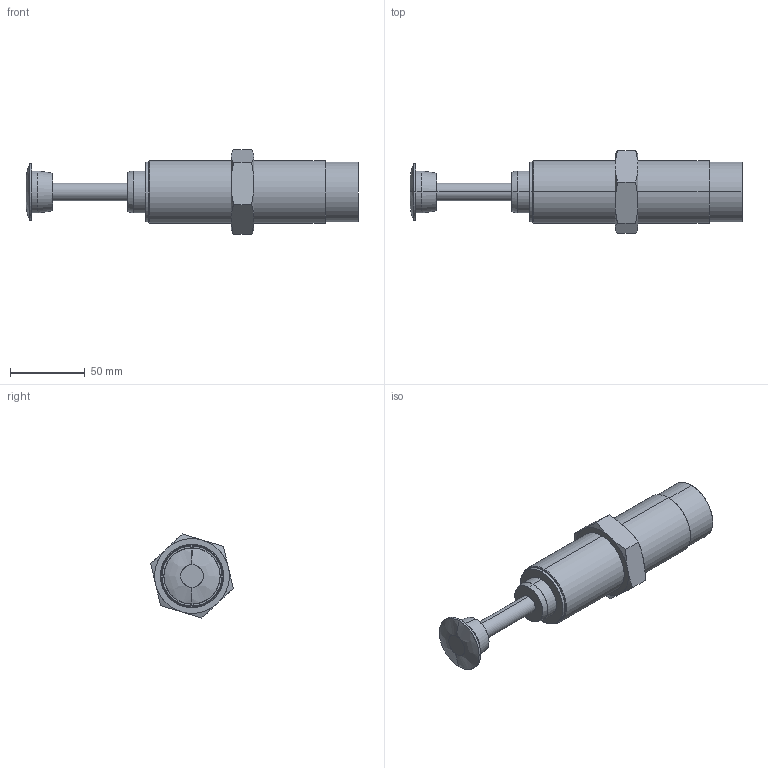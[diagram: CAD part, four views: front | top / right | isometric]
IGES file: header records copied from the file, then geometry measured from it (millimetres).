
Start section: SolidWorks IGES file using analytic representation for surfaces
Global section: file name: C:\Users\Sam Lin\Desktop\48\FSA-4250CD.IGS; native system: SolidWorks 2013; preprocessor: SolidWorks 2013; author: Sam Lin; date: 160317.152554; units: metre
Bounding box: 221.5 x 55.15 x 56.11 mm (x, y, z)
Surface area: 33339.7 mm2 (no closed solid volume)
Topology: 0 solids, 0 shells, 54 faces, 1256 edges, 1256 vertices
Faces by surface type: bspline 32, revolution 22
